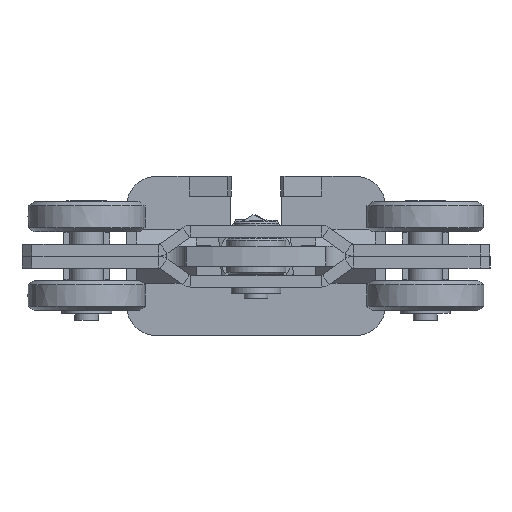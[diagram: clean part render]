
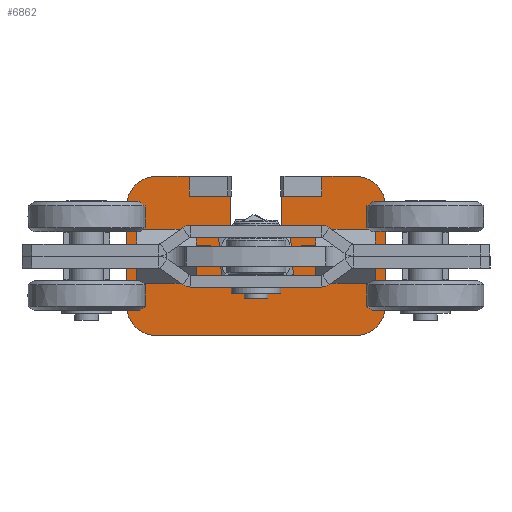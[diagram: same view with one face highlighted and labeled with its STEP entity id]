
A CAD part, front view. The second image highlights one B-rep face of the part: STEP entity #6862.
In plain terms, the highlighted planar face has unit normal (0, -1, 0) as drawn and (0, 0, 1) by its records, which use the part's own axes.
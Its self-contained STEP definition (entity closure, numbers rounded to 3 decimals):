
#275=FACE_BOUND('',#1429,.T.);
#276=FACE_BOUND('',#1430,.T.);
#410=CIRCLE('',#7339,15.);
#411=CIRCLE('',#7340,15.);
#412=CIRCLE('',#7341,15.);
#413=CIRCLE('',#7342,15.);
#414=CIRCLE('',#7343,13.);
#1016=FACE_OUTER_BOUND('',#1428,.T.);
#1428=EDGE_LOOP('',(#5120,#5121,#5122,#5123,#5124,#5125,#5126,#5127,#5128,
#5129,#5130,#5131,#5132,#5133,#5134,#5135,#5136,#5137,#5138,#5139));
#1429=EDGE_LOOP('',(#5140,#5141,#5142,#5143));
#1430=EDGE_LOOP('',(#5144,#5145,#5146,#5147));
#2013=LINE('',#10631,#2579);
#2025=LINE('',#10655,#2591);
#2029=LINE('',#10663,#2595);
#2031=LINE('',#10667,#2597);
#2034=LINE('',#10673,#2600);
#2035=LINE('',#10677,#2601);
#2036=LINE('',#10681,#2602);
#2037=LINE('',#10685,#2603);
#2038=LINE('',#10689,#2604);
#2039=LINE('',#10691,#2605);
#2040=LINE('',#10693,#2606);
#2041=LINE('',#10695,#2607);
#2042=LINE('',#10697,#2608);
#2043=LINE('',#10699,#2609);
#2044=LINE('',#10702,#2610);
#2045=LINE('',#10705,#2611);
#2046=LINE('',#10707,#2612);
#2047=LINE('',#10709,#2613);
#2048=LINE('',#10710,#2614);
#2049=LINE('',#10713,#2615);
#2050=LINE('',#10715,#2616);
#2051=LINE('',#10717,#2617);
#2052=LINE('',#10718,#2618);
#2579=VECTOR('',#8491,10.);
#2591=VECTOR('',#8517,0.1);
#2595=VECTOR('',#8523,0.1);
#2597=VECTOR('',#8527,20.571);
#2600=VECTOR('',#8532,16.529);
#2601=VECTOR('',#8535,50.);
#2602=VECTOR('',#8538,100.);
#2603=VECTOR('',#8541,50.);
#2604=VECTOR('',#8544,17.);
#2605=VECTOR('',#8545,10.);
#2606=VECTOR('',#8546,0.1);
#2607=VECTOR('',#8547,0.1);
#2608=VECTOR('',#8548,20.1);
#2609=VECTOR('',#8549,35.9);
#2610=VECTOR('',#8552,35.9);
#2611=VECTOR('',#8553,10.2);
#2612=VECTOR('',#8554,30.4);
#2613=VECTOR('',#8555,10.2);
#2614=VECTOR('',#8556,30.4);
#2615=VECTOR('',#8557,10.2);
#2616=VECTOR('',#8558,30.4);
#2617=VECTOR('',#8559,10.2);
#2618=VECTOR('',#8560,30.4);
#3092=VERTEX_POINT('',#10618);
#3095=VERTEX_POINT('',#10625);
#3101=VERTEX_POINT('',#10654);
#3104=VERTEX_POINT('',#10662);
#3105=VERTEX_POINT('',#10666);
#3107=VERTEX_POINT('',#10672);
#3108=VERTEX_POINT('',#10674);
#3109=VERTEX_POINT('',#10676);
#3110=VERTEX_POINT('',#10678);
#3111=VERTEX_POINT('',#10680);
#3112=VERTEX_POINT('',#10682);
#3113=VERTEX_POINT('',#10684);
#3114=VERTEX_POINT('',#10686);
#3115=VERTEX_POINT('',#10688);
#3116=VERTEX_POINT('',#10690);
#3117=VERTEX_POINT('',#10692);
#3118=VERTEX_POINT('',#10694);
#3119=VERTEX_POINT('',#10696);
#3120=VERTEX_POINT('',#10698);
#3121=VERTEX_POINT('',#10700);
#3122=VERTEX_POINT('',#10703);
#3123=VERTEX_POINT('',#10704);
#3124=VERTEX_POINT('',#10706);
#3125=VERTEX_POINT('',#10708);
#3126=VERTEX_POINT('',#10711);
#3127=VERTEX_POINT('',#10712);
#3128=VERTEX_POINT('',#10714);
#3129=VERTEX_POINT('',#10716);
#3849=EDGE_CURVE('',#3092,#3095,#2013,.T.);
#3861=EDGE_CURVE('',#3101,#3092,#2025,.T.);
#3865=EDGE_CURVE('',#3104,#3101,#2029,.T.);
#3867=EDGE_CURVE('',#3104,#3105,#2031,.T.);
#3870=EDGE_CURVE('',#3107,#3095,#2034,.T.);
#3871=EDGE_CURVE('',#3108,#3107,#410,.T.);
#3872=EDGE_CURVE('',#3109,#3108,#2035,.T.);
#3873=EDGE_CURVE('',#3110,#3109,#411,.T.);
#3874=EDGE_CURVE('',#3111,#3110,#2036,.T.);
#3875=EDGE_CURVE('',#3112,#3111,#412,.T.);
#3876=EDGE_CURVE('',#3113,#3112,#2037,.T.);
#3877=EDGE_CURVE('',#3114,#3113,#413,.T.);
#3878=EDGE_CURVE('',#3115,#3114,#2038,.T.);
#3879=EDGE_CURVE('',#3115,#3116,#2039,.T.);
#3880=EDGE_CURVE('',#3116,#3117,#2040,.T.);
#3881=EDGE_CURVE('',#3117,#3118,#2041,.T.);
#3882=EDGE_CURVE('',#3118,#3119,#2042,.T.);
#3883=EDGE_CURVE('',#3120,#3119,#2043,.T.);
#3884=EDGE_CURVE('',#3121,#3120,#414,.T.);
#3885=EDGE_CURVE('',#3105,#3121,#2044,.T.);
#3886=EDGE_CURVE('',#3122,#3123,#2045,.T.);
#3887=EDGE_CURVE('',#3123,#3124,#2046,.T.);
#3888=EDGE_CURVE('',#3124,#3125,#2047,.T.);
#3889=EDGE_CURVE('',#3125,#3122,#2048,.T.);
#3890=EDGE_CURVE('',#3126,#3127,#2049,.T.);
#3891=EDGE_CURVE('',#3127,#3128,#2050,.T.);
#3892=EDGE_CURVE('',#3128,#3129,#2051,.T.);
#3893=EDGE_CURVE('',#3129,#3126,#2052,.T.);
#5120=ORIENTED_EDGE('',*,*,#3867,.F.);
#5121=ORIENTED_EDGE('',*,*,#3865,.T.);
#5122=ORIENTED_EDGE('',*,*,#3861,.T.);
#5123=ORIENTED_EDGE('',*,*,#3849,.T.);
#5124=ORIENTED_EDGE('',*,*,#3870,.F.);
#5125=ORIENTED_EDGE('',*,*,#3871,.F.);
#5126=ORIENTED_EDGE('',*,*,#3872,.F.);
#5127=ORIENTED_EDGE('',*,*,#3873,.F.);
#5128=ORIENTED_EDGE('',*,*,#3874,.F.);
#5129=ORIENTED_EDGE('',*,*,#3875,.F.);
#5130=ORIENTED_EDGE('',*,*,#3876,.F.);
#5131=ORIENTED_EDGE('',*,*,#3877,.F.);
#5132=ORIENTED_EDGE('',*,*,#3878,.F.);
#5133=ORIENTED_EDGE('',*,*,#3879,.T.);
#5134=ORIENTED_EDGE('',*,*,#3880,.T.);
#5135=ORIENTED_EDGE('',*,*,#3881,.T.);
#5136=ORIENTED_EDGE('',*,*,#3882,.T.);
#5137=ORIENTED_EDGE('',*,*,#3883,.F.);
#5138=ORIENTED_EDGE('',*,*,#3884,.F.);
#5139=ORIENTED_EDGE('',*,*,#3885,.F.);
#5140=ORIENTED_EDGE('',*,*,#3886,.T.);
#5141=ORIENTED_EDGE('',*,*,#3887,.T.);
#5142=ORIENTED_EDGE('',*,*,#3888,.T.);
#5143=ORIENTED_EDGE('',*,*,#3889,.T.);
#5144=ORIENTED_EDGE('',*,*,#3890,.T.);
#5145=ORIENTED_EDGE('',*,*,#3891,.T.);
#5146=ORIENTED_EDGE('',*,*,#3892,.T.);
#5147=ORIENTED_EDGE('',*,*,#3893,.T.);
#6616=PLANE('',#7338);
#6862=ADVANCED_FACE('',(#1016,#275,#276),#6616,.T.);
#7338=AXIS2_PLACEMENT_3D('',#10671,#8530,#8531);
#7339=AXIS2_PLACEMENT_3D('',#10675,#8533,#8534);
#7340=AXIS2_PLACEMENT_3D('',#10679,#8536,#8537);
#7341=AXIS2_PLACEMENT_3D('',#10683,#8539,#8540);
#7342=AXIS2_PLACEMENT_3D('',#10687,#8542,#8543);
#7343=AXIS2_PLACEMENT_3D('',#10701,#8550,#8551);
#8491=DIRECTION('',(0.,-1.,0.));
#8517=DIRECTION('',(-1.,0.,0.));
#8523=DIRECTION('',(0.,-1.,0.));
#8527=DIRECTION('',(-1.,0.,0.));
#8530=DIRECTION('center_axis',(0.,0.,1.));
#8531=DIRECTION('ref_axis',(1.,0.,0.));
#8532=DIRECTION('',(-1.,0.,0.));
#8533=DIRECTION('center_axis',(0.,0.,-1.));
#8534=DIRECTION('ref_axis',(0.,-1.,0.));
#8535=DIRECTION('',(0.,-1.,0.));
#8536=DIRECTION('center_axis',(0.,0.,-1.));
#8537=DIRECTION('ref_axis',(1.,0.,0.));
#8538=DIRECTION('',(1.,0.,0.));
#8539=DIRECTION('center_axis',(0.,0.,-1.));
#8540=DIRECTION('ref_axis',(0.,1.,0.));
#8541=DIRECTION('',(0.,1.,0.));
#8542=DIRECTION('center_axis',(0.,0.,-1.));
#8543=DIRECTION('ref_axis',(-1.,0.,0.));
#8544=DIRECTION('',(-1.,0.,0.));
#8545=DIRECTION('',(0.,1.,0.));
#8546=DIRECTION('',(-1.,0.,0.));
#8547=DIRECTION('',(0.,1.,0.));
#8548=DIRECTION('',(1.,0.,0.));
#8549=DIRECTION('',(0.,-1.,0.));
#8550=DIRECTION('center_axis',(0.,0.,1.));
#8551=DIRECTION('ref_axis',(-1.,0.,0.));
#8552=DIRECTION('',(0.,1.,0.));
#8553=DIRECTION('',(0.,-1.,0.));
#8554=DIRECTION('',(-1.,0.,0.));
#8555=DIRECTION('',(0.,1.,0.));
#8556=DIRECTION('',(1.,0.,0.));
#8557=DIRECTION('',(0.,-1.,0.));
#8558=DIRECTION('',(-1.,0.,0.));
#8559=DIRECTION('',(0.,1.,0.));
#8560=DIRECTION('',(1.,0.,0.));
#10618=CARTESIAN_POINT('',(33.471,-30.,10.));
#10625=CARTESIAN_POINT('',(33.471,-40.,10.));
#10631=CARTESIAN_POINT('',(33.471,-22.039,10.));
#10654=CARTESIAN_POINT('',(33.571,-30.,10.));
#10655=CARTESIAN_POINT('',(16.214,-30.,10.));
#10662=CARTESIAN_POINT('',(33.571,-29.9,10.));
#10663=CARTESIAN_POINT('',(33.571,-17.039,10.));
#10666=CARTESIAN_POINT('',(13.,-29.9,10.));
#10667=CARTESIAN_POINT('',(13.,-29.9,10.));
#10671=CARTESIAN_POINT('Origin',(0.,-4.079,
10.));
#10672=CARTESIAN_POINT('',(50.,-40.,10.));
#10673=CARTESIAN_POINT('',(-50.,-40.,10.));
#10674=CARTESIAN_POINT('',(65.,-25.,10.));
#10675=CARTESIAN_POINT('Origin',(50.,-25.,10.));
#10676=CARTESIAN_POINT('',(65.,25.,10.));
#10677=CARTESIAN_POINT('',(65.,-25.,10.));
#10678=CARTESIAN_POINT('',(50.,40.,10.));
#10679=CARTESIAN_POINT('Origin',(50.,25.,10.));
#10680=CARTESIAN_POINT('',(-50.,40.,10.));
#10681=CARTESIAN_POINT('',(50.,40.,10.));
#10682=CARTESIAN_POINT('',(-65.,25.,10.));
#10683=CARTESIAN_POINT('Origin',(-50.,25.,10.));
#10684=CARTESIAN_POINT('',(-65.,-25.,10.));
#10685=CARTESIAN_POINT('',(-65.,25.,10.));
#10686=CARTESIAN_POINT('',(-50.,-40.,10.));
#10687=CARTESIAN_POINT('Origin',(-50.,-25.,10.));
#10688=CARTESIAN_POINT('',(-33.,-40.,10.));
#10689=CARTESIAN_POINT('',(-50.,-40.,10.));
#10690=CARTESIAN_POINT('',(-33.,-30.,10.));
#10691=CARTESIAN_POINT('',(-33.,-17.039,10.));
#10692=CARTESIAN_POINT('',(-33.1,-30.,10.));
#10693=CARTESIAN_POINT('',(-16.55,-30.,10.));
#10694=CARTESIAN_POINT('',(-33.1,-29.9,10.));
#10695=CARTESIAN_POINT('',(-33.1,-16.989,10.));
#10696=CARTESIAN_POINT('',(-13.,-29.9,10.));
#10697=CARTESIAN_POINT('',(-15.979,-29.9,10.));
#10698=CARTESIAN_POINT('',(-13.,6.,10.));
#10699=CARTESIAN_POINT('',(-13.,-29.9,10.));
#10700=CARTESIAN_POINT('',(13.,6.,10.));
#10701=CARTESIAN_POINT('Origin',(0.,6.,
10.));
#10702=CARTESIAN_POINT('',(13.,6.,10.));
#10703=CARTESIAN_POINT('',(-22.8,5.1,10.));
#10704=CARTESIAN_POINT('',(-22.8,-5.1,10.));
#10705=CARTESIAN_POINT('',(-22.8,0.511,10.));
#10706=CARTESIAN_POINT('',(-53.2,-5.1,10.));
#10707=CARTESIAN_POINT('',(-11.4,-5.1,10.));
#10708=CARTESIAN_POINT('',(-53.2,5.1,10.));
#10709=CARTESIAN_POINT('',(-53.2,-4.589,10.));
#10710=CARTESIAN_POINT('',(-26.6,5.1,10.));
#10711=CARTESIAN_POINT('',(53.2,5.1,10.));
#10712=CARTESIAN_POINT('',(53.2,-5.1,10.));
#10713=CARTESIAN_POINT('',(53.2,0.511,10.));
#10714=CARTESIAN_POINT('',(22.8,-5.1,10.));
#10715=CARTESIAN_POINT('',(26.6,-5.1,10.));
#10716=CARTESIAN_POINT('',(22.8,5.1,10.));
#10717=CARTESIAN_POINT('',(22.8,-4.589,10.));
#10718=CARTESIAN_POINT('',(11.4,5.1,10.));
